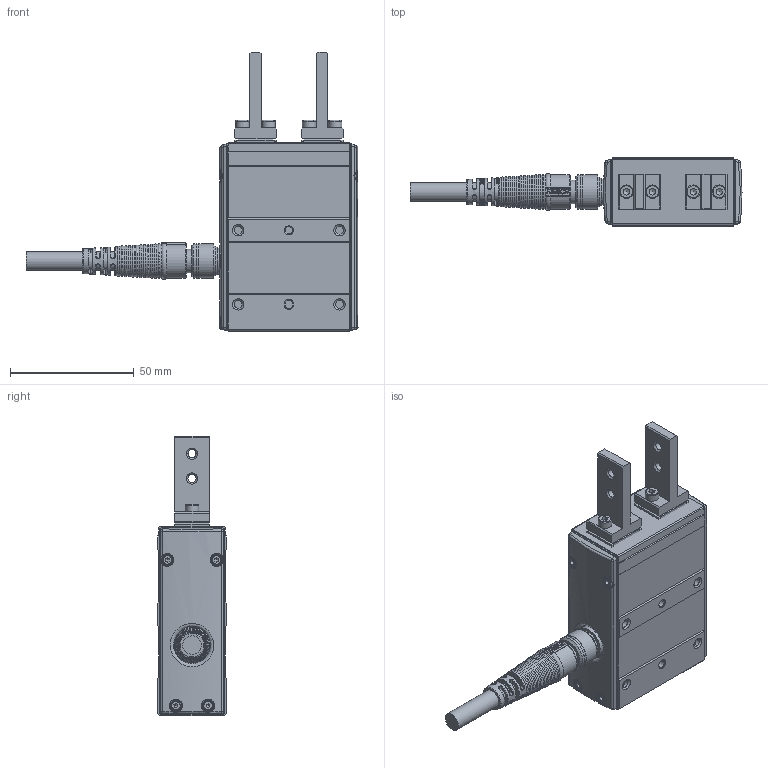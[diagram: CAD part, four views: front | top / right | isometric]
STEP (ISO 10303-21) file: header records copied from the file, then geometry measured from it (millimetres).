
FILE_DESCRIPTION(/* description */ (''),/* implementation_level */ '2;1');
FILE_NAME(/* name */ 'D:\2025.02.25 帶電匯整給泊舟\7. CHZ2系列\CHZ2-N10-180.stp',/* time_stamp */ '2025-02-26T10:18:22+08:00',/* author */ ('T10033'),/* organization */ (''),/* preprocessor_version */ 'ST-DEVELOPER v18.1',/* originating_system */ 'Autodesk Inventor 2020',/* authorisation */ '');
FILE_SCHEMA (('CONFIG_CONTROL_DESIGN'));
Products named in the file (9): CHZ2-S10-180; 11003-001130_珠溝研磨(單顆); 12008-000058; 慶陞金屬頭; M12-14PIN 線端180度接頭-05中繼線; 7 32T634TSSE3R_Shrinkwrap_1; 43T63T643; 夾頭-正式版; ANSI B18.3.1M - M3x0.5 x 10, FSHCSM
Assembly tree (14 placements, depth 3):
  CHZ2-S10-180
    11003-001130_珠溝研磨(單顆)  x2
    12008-000058  x4
    慶陞金屬頭
    M12-14PIN 線端180度接頭-05中繼線
    7 32T634TSSE3R_Shrinkwrap_1
    43T63T643  x2
      夾頭-正式版
      ANSI B18.3.1M - M3x0.5 x 10, FSHCSM
Bounding box: 134.4 x 28 x 113 mm (x, y, z)
Volume: 132286.6 mm3; surface area: 43530.3 mm2
Topology: 44 solids, 44 shells, 2168 faces, 5965 edges, 3973 vertices
Faces by surface type: plane 1065, cylinder 469, cone 368, bspline 175, torus 71, sphere 20
Full cylindrical faces by diameter (mm): 0.6 x14, 0.65 x14, 0.8 x2, 1 x18, 1.567 x8, 2 x10, 2.013 x8, 2.459 x6, 3 x15, 3.2 x4, 3.242 x16, 3.8 x16, 4 x2, 5.5 x8, 6.647 x2, 7.5 x1, 8 x3, 8.9 x1, 9.5 x2, 9.6 x1, 10.5 x2, 11 x1, 11.2 x5, 12 x1, 13 x1, 13.8 x1, 14 x2
Entity records: 79027 total; most frequent: CARTESIAN_POINT 25854, DIRECTION 10860, ORIENTED_EDGE 10770, EDGE_CURVE 5385, AXIS2_PLACEMENT_3D 4190, VERTEX_POINT 3600, LINE 2480, VECTOR 2480
